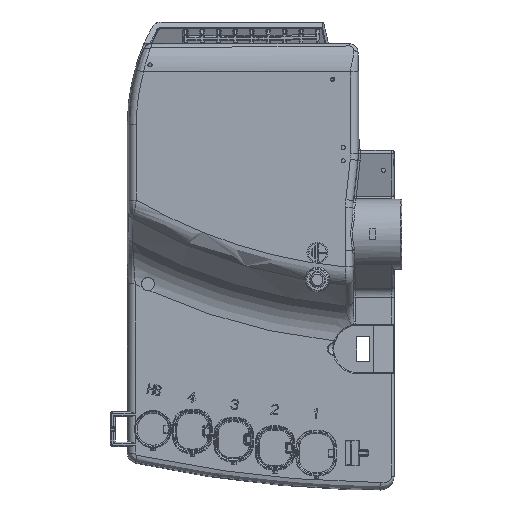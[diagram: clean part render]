
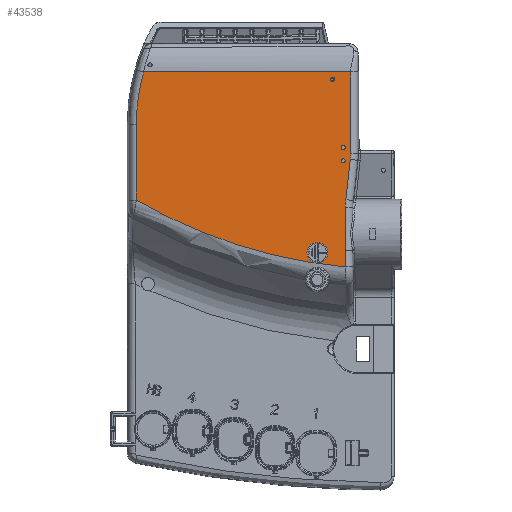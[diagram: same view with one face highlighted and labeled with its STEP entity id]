
A CAD part, top view. The second image highlights one B-rep face of the part: STEP entity #43538.
In plain terms, the highlighted planar face has unit normal (0, 0, 1).
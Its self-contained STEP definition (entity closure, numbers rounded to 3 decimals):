
#159=CARTESIAN_POINT('',(132.5,357.042,31.75));
#160=DIRECTION('',(0.,0.,-1.));
#161=DIRECTION('',(-0.096,-0.995,0.));
#162=AXIS2_PLACEMENT_3D('',#159,#160,#161);
#167=CARTESIAN_POINT('',(103.,177.042,31.75));
#168=DIRECTION('',(0.,0.,-1.));
#169=DIRECTION('',(-1.,0.,0.));
#170=AXIS2_PLACEMENT_3D('',#167,#168,#169);
#175=CARTESIAN_POINT('',(85.5,163.042,31.75));
#176=DIRECTION('',(0.,0.,-1.));
#177=DIRECTION('',(1.,0.,0.));
#178=AXIS2_PLACEMENT_3D('',#175,#176,#177);
#183=DIRECTION('',(-0.109,-0.994,0.));
#184=VECTOR('',#183,19.551);
#185=CARTESIAN_POINT('',(110.964,160.238,31.75));
#186=LINE('',#185,#184);
#190=CARTESIAN_POINT('',(143.,137.042,31.75));
#191=DIRECTION('',(0.,0.,1.));
#192=DIRECTION('',(-0.994,0.109,0.));
#193=AXIS2_PLACEMENT_3D('',#190,#191,#192);
#198=CARTESIAN_POINT('',(107.5,159.542,31.75));
#199=DIRECTION('',(0.,0.,1.));
#200=DIRECTION('',(0.,-1.,0.));
#201=AXIS2_PLACEMENT_3D('',#198,#199,#200);
#206=CARTESIAN_POINT('',(107.5,159.542,31.75));
#207=DIRECTION('',(0.,0.,1.));
#208=DIRECTION('',(0.,1.,0.));
#209=AXIS2_PLACEMENT_3D('',#206,#207,#208);
#214=CARTESIAN_POINT('',(107.5,166.042,31.75));
#215=DIRECTION('',(0.,0.,1.));
#216=DIRECTION('',(0.,-1.,0.));
#217=AXIS2_PLACEMENT_3D('',#214,#215,#216);
#222=CARTESIAN_POINT('',(107.5,166.042,31.75));
#223=DIRECTION('',(0.,0.,1.));
#224=DIRECTION('',(0.,1.,0.));
#225=AXIS2_PLACEMENT_3D('',#222,#223,#224);
#230=CARTESIAN_POINT('',(102.5,199.042,31.75));
#231=DIRECTION('',(0.,0.,1.));
#232=DIRECTION('',(0.,-1.,0.));
#233=AXIS2_PLACEMENT_3D('',#230,#231,#232);
#238=CARTESIAN_POINT('',(102.5,199.042,31.75));
#239=DIRECTION('',(0.,0.,1.));
#240=DIRECTION('',(0.,1.,0.));
#241=AXIS2_PLACEMENT_3D('',#238,#239,#240);
#246=CARTESIAN_POINT('',(95.,115.042,31.75));
#247=DIRECTION('',(0.,0.,1.));
#248=DIRECTION('',(0.,-1.,0.));
#249=AXIS2_PLACEMENT_3D('',#246,#247,#248);
#254=CARTESIAN_POINT('',(95.,115.042,31.75));
#255=DIRECTION('',(0.,0.,1.));
#256=DIRECTION('',(0.,1.,0.));
#257=AXIS2_PLACEMENT_3D('',#254,#255,#256);
#287=DIRECTION('',(0.,1.,0.));
#288=VECTOR('',#287,7.972);
#289=CARTESIAN_POINT('',(108.618,108.185,31.75));
#290=LINE('',#289,#288);
#7525=DIRECTION('',(0.,1.,0.));
#7526=VECTOR('',#7525,20.884);
#7527=CARTESIAN_POINT('',(108.618,116.157,31.75));
#7528=LINE('',#7527,#7526);
#7586=CARTESIAN_POINT('',(111.118,163.042,31.75));
#7587=CARTESIAN_POINT('',(111.118,165.436,31.75));
#7588=CARTESIAN_POINT('',(111.118,170.066,31.75));
#7589=CARTESIAN_POINT('',(111.118,176.521,31.75));
#7590=CARTESIAN_POINT('',(111.118,182.532,31.75));
#7591=CARTESIAN_POINT('',(111.118,188.127,31.75));
#7592=CARTESIAN_POINT('',(111.118,193.333,31.75));
#7593=CARTESIAN_POINT('',(111.118,198.168,31.75));
#7594=CARTESIAN_POINT('',(111.117,201.165,31.75));
#7595=CARTESIAN_POINT('',(111.117,202.604,31.75));
#7691=DIRECTION('',(-1.,0.,0.));
#7692=VECTOR('',#7691,100.255);
#7693=CARTESIAN_POINT('',(111.117,202.604,31.75));
#7694=LINE('',#7693,#7692);
#7761=DIRECTION('',(0.,-1.,0.));
#7762=VECTOR('',#7761,36.438);
#7763=CARTESIAN_POINT('',(7.382,177.042,31.75));
#7764=LINE('',#7763,#7762);
#38522=CARTESIAN_POINT('',(108.618,108.185,31.75));
#38523=CARTESIAN_POINT('',(108.618,116.157,31.75));
#38524=VERTEX_POINT('',#38522);
#38525=VERTEX_POINT('',#38523);
#38526=CARTESIAN_POINT('',(7.382,140.604,31.75));
#38527=VERTEX_POINT('',#38526);
#38528=CARTESIAN_POINT('',(7.382,177.042,31.75));
#38529=VERTEX_POINT('',#38528);
#38530=CARTESIAN_POINT('',(10.862,202.604,31.75));
#38531=VERTEX_POINT('',#38530);
#38532=CARTESIAN_POINT('',(111.117,202.604,31.75));
#38533=VERTEX_POINT('',#38532);
#38534=VERTEX_POINT('',#7586);
#38535=CARTESIAN_POINT('',(110.964,160.238,31.75));
#38536=VERTEX_POINT('',#38535);
#38537=CARTESIAN_POINT('',(108.824,140.804,31.75));
#38538=VERTEX_POINT('',#38537);
#38539=CARTESIAN_POINT('',(108.618,137.042,31.75));
#38540=VERTEX_POINT('',#38539);
#38541=CARTESIAN_POINT('',(107.5,158.542,31.75));
#38542=CARTESIAN_POINT('',(107.5,160.542,31.75));
#38543=VERTEX_POINT('',#38541);
#38544=VERTEX_POINT('',#38542);
#38545=CARTESIAN_POINT('',(107.5,165.042,31.75));
#38546=CARTESIAN_POINT('',(107.5,167.042,31.75));
#38547=VERTEX_POINT('',#38545);
#38548=VERTEX_POINT('',#38546);
#38549=CARTESIAN_POINT('',(102.5,198.042,31.75));
#38550=CARTESIAN_POINT('',(102.5,200.042,31.75));
#38551=VERTEX_POINT('',#38549);
#38552=VERTEX_POINT('',#38550);
#38553=CARTESIAN_POINT('',(95.,110.042,31.75));
#38554=CARTESIAN_POINT('',(95.,120.042,31.75));
#38555=VERTEX_POINT('',#38553);
#38556=VERTEX_POINT('',#38554);
#43488=CARTESIAN_POINT('',(3.,217.042,31.75));
#43489=DIRECTION('',(0.,0.,1.));
#43490=DIRECTION('',(0.,-1.,0.));
#43491=AXIS2_PLACEMENT_3D('',#43488,#43489,#43490);
#43492=PLANE('',#43491);
#43494=ORIENTED_EDGE('',*,*,#43493,.F.);
#43496=ORIENTED_EDGE('',*,*,#43495,.T.);
#43498=ORIENTED_EDGE('',*,*,#43497,.F.);
#43500=ORIENTED_EDGE('',*,*,#43499,.T.);
#43502=ORIENTED_EDGE('',*,*,#43501,.F.);
#43504=ORIENTED_EDGE('',*,*,#43503,.F.);
#43506=ORIENTED_EDGE('',*,*,#43505,.T.);
#43508=ORIENTED_EDGE('',*,*,#43507,.T.);
#43510=ORIENTED_EDGE('',*,*,#43509,.T.);
#43512=ORIENTED_EDGE('',*,*,#43511,.F.);
#43513=EDGE_LOOP('',(#43494,#43496,#43498,#43500,#43502,#43504,#43506,#43508,
#43510,#43512));
#43514=FACE_OUTER_BOUND('',#43513,.F.);
#43516=ORIENTED_EDGE('',*,*,#43515,.T.);
#43518=ORIENTED_EDGE('',*,*,#43517,.T.);
#43519=EDGE_LOOP('',(#43516,#43518));
#43520=FACE_BOUND('',#43519,.F.);
#43522=ORIENTED_EDGE('',*,*,#43521,.T.);
#43524=ORIENTED_EDGE('',*,*,#43523,.T.);
#43525=EDGE_LOOP('',(#43522,#43524));
#43526=FACE_BOUND('',#43525,.F.);
#43528=ORIENTED_EDGE('',*,*,#43527,.T.);
#43530=ORIENTED_EDGE('',*,*,#43529,.T.);
#43531=EDGE_LOOP('',(#43528,#43530));
#43532=FACE_BOUND('',#43531,.F.);
#43533=ORIENTED_EDGE('',*,*,#43478,.T.);
#43535=ORIENTED_EDGE('',*,*,#43534,.T.);
#43536=EDGE_LOOP('',(#43533,#43535));
#43537=FACE_BOUND('',#43536,.F.);
#43538=ADVANCED_FACE('',(#43514,#43520,#43526,#43532,#43537),#43492,.T.);
#163=CIRCLE('',#162,250.);
#171=CIRCLE('',#170,95.618);
#179=CIRCLE('',#178,25.618);
#194=CIRCLE('',#193,34.382);
#202=CIRCLE('',#201,1.);
#210=CIRCLE('',#209,1.);
#218=CIRCLE('',#217,1.);
#226=CIRCLE('',#225,1.);
#234=CIRCLE('',#233,1.);
#242=CIRCLE('',#241,1.);
#250=CIRCLE('',#249,5.);
#258=CIRCLE('',#257,5.);
#7596=B_SPLINE_CURVE_WITH_KNOTS('',3,(#7586,#7587,#7588,#7589,#7590,#7591,#7592,
#7593,#7594,#7595),.UNSPECIFIED.,.F.,.F.,(4,1,1,1,1,1,1,4),(0.,
0.143,0.286,0.429,0.571,
0.714,0.857,1.),.UNSPECIFIED.);
#43478=EDGE_CURVE('',#38555,#38556,#250,.T.);
#43493=EDGE_CURVE('',#38524,#38525,#290,.T.);
#43495=EDGE_CURVE('',#38524,#38527,#163,.T.);
#43497=EDGE_CURVE('',#38529,#38527,#7764,.T.);
#43499=EDGE_CURVE('',#38529,#38531,#171,.T.);
#43501=EDGE_CURVE('',#38533,#38531,#7694,.T.);
#43503=EDGE_CURVE('',#38534,#38533,#7596,.T.);
#43505=EDGE_CURVE('',#38534,#38536,#179,.T.);
#43507=EDGE_CURVE('',#38536,#38538,#186,.T.);
#43509=EDGE_CURVE('',#38538,#38540,#194,.T.);
#43511=EDGE_CURVE('',#38525,#38540,#7528,.T.);
#43515=EDGE_CURVE('',#38543,#38544,#202,.T.);
#43517=EDGE_CURVE('',#38544,#38543,#210,.T.);
#43521=EDGE_CURVE('',#38547,#38548,#218,.T.);
#43523=EDGE_CURVE('',#38548,#38547,#226,.T.);
#43527=EDGE_CURVE('',#38551,#38552,#234,.T.);
#43529=EDGE_CURVE('',#38552,#38551,#242,.T.);
#43534=EDGE_CURVE('',#38556,#38555,#258,.T.);
